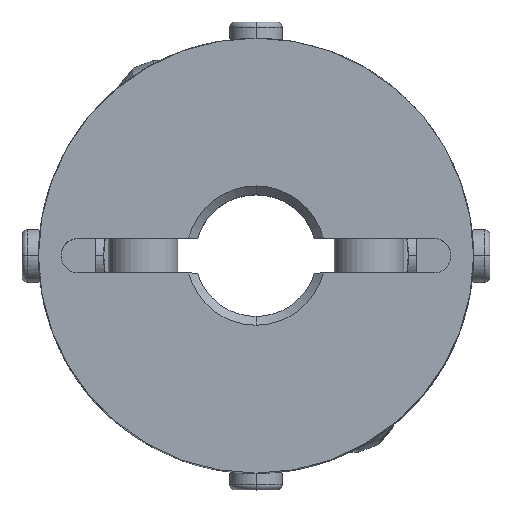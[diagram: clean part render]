
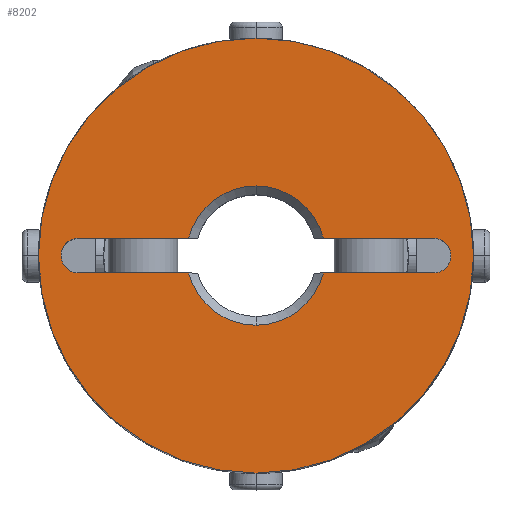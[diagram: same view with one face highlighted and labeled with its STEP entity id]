
A CAD part, top view. The second image highlights one B-rep face of the part: STEP entity #8202.
In plain terms, the highlighted planar face has unit normal (0, 0, 1).
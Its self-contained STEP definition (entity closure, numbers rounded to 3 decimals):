
#885=CARTESIAN_POINT('',(0.,12.5,13.5));
#886=VERTEX_POINT('',#885);
#893=CARTESIAN_POINT('',(0.,-12.5,13.5));
#894=VERTEX_POINT('',#893);
#895=CARTESIAN_POINT('',(0.,0.0,13.5));
#896=DIRECTION('',(0.0,0.0,-1.0));
#897=DIRECTION('',(0.0,-1.0,0.0));
#898=AXIS2_PLACEMENT_3D('',#895,#896,#897);
#899=CIRCLE('',#898,12.5);
#900=EDGE_CURVE('',#886,#894,#899,.T.);
#1153=CARTESIAN_POINT('',(10.907,0.707,13.5));
#1154=VERTEX_POINT('',#1153);
#1170=CARTESIAN_POINT('',(10.2,-1.,13.5));
#1171=VERTEX_POINT('',#1170);
#1178=CARTESIAN_POINT('',(10.2,0.,13.5));
#1179=DIRECTION('',(0.0,0.0,1.0));
#1180=DIRECTION('',(0.707,-0.707,0.0));
#1181=AXIS2_PLACEMENT_3D('',#1178,#1179,#1180);
#1182=CIRCLE('',#1181,1.0);
#1183=EDGE_CURVE('',#1171,#1154,#1182,.T.);
#1195=CARTESIAN_POINT('',(-10.907,-0.707,13.5));
#1196=VERTEX_POINT('',#1195);
#1212=CARTESIAN_POINT('',(-10.2,1.,13.5));
#1213=VERTEX_POINT('',#1212);
#1220=CARTESIAN_POINT('',(-10.2,0.,13.5));
#1221=DIRECTION('',(0.0,0.0,1.0));
#1222=DIRECTION('',(-0.707,0.707,0.0));
#1223=AXIS2_PLACEMENT_3D('',#1220,#1221,#1222);
#1224=CIRCLE('',#1223,1.0);
#1225=EDGE_CURVE('',#1213,#1196,#1224,.T.);
#1235=CARTESIAN_POINT('',(0.,4.0,13.5));
#1236=VERTEX_POINT('',#1235);
#1244=CARTESIAN_POINT('',(3.873,1.,13.5));
#1245=VERTEX_POINT('',#1244);
#1259=CARTESIAN_POINT('',(0.,0.0,13.5));
#1260=DIRECTION('',(0.0,0.0,1.0));
#1261=DIRECTION('',(0.0,1.0,0.0));
#1262=AXIS2_PLACEMENT_3D('',#1259,#1260,#1261);
#1263=CIRCLE('',#1262,4.0);
#1264=EDGE_CURVE('',#1245,#1236,#1263,.T.);
#1276=CARTESIAN_POINT('',(0.,-4.0,13.5));
#1277=VERTEX_POINT('',#1276);
#1293=CARTESIAN_POINT('',(-3.873,-1.,13.5));
#1294=VERTEX_POINT('',#1293);
#1308=CARTESIAN_POINT('',(0.,0.0,13.5));
#1309=DIRECTION('',(0.0,0.0,1.0));
#1310=DIRECTION('',(0.0,-1.0,0.0));
#1311=AXIS2_PLACEMENT_3D('',#1308,#1309,#1310);
#1312=CIRCLE('',#1311,4.0);
#1313=EDGE_CURVE('',#1294,#1277,#1312,.T.);
#7994=CARTESIAN_POINT('',(-10.2,-1.,13.5));
#7995=VERTEX_POINT('',#7994);
#8002=CARTESIAN_POINT('',(-3.873,-1.,13.5));
#8003=DIRECTION('',(-1.0,0.0,0.0));
#8004=VECTOR('',#8003,6.327);
#8005=LINE('',#8002,#8004);
#8006=EDGE_CURVE('',#1294,#7995,#8005,.T.);
#8063=CARTESIAN_POINT('',(-3.873,1.,13.5));
#8064=VERTEX_POINT('',#8063);
#8078=CARTESIAN_POINT('',(-10.2,1.,13.5));
#8079=DIRECTION('',(1.0,0.0,0.0));
#8080=VECTOR('',#8079,6.327);
#8081=LINE('',#8078,#8080);
#8082=EDGE_CURVE('',#1213,#8064,#8081,.T.);
#8099=CARTESIAN_POINT('',(3.873,-1.,13.5));
#8100=VERTEX_POINT('',#8099);
#8101=CARTESIAN_POINT('',(0.,0.0,13.5));
#8102=DIRECTION('',(0.0,0.0,1.0));
#8103=DIRECTION('',(0.0,-1.0,0.0));
#8104=AXIS2_PLACEMENT_3D('',#8101,#8102,#8103);
#8105=CIRCLE('',#8104,4.0);
#8106=EDGE_CURVE('',#1277,#8100,#8105,.T.);
#8133=CARTESIAN_POINT('',(10.2,-1.,13.5));
#8134=DIRECTION('',(-1.0,0.0,0.0));
#8135=VECTOR('',#8134,6.327);
#8136=LINE('',#8133,#8135);
#8137=EDGE_CURVE('',#1171,#8100,#8136,.T.);
#8148=CARTESIAN_POINT('',(0.,-1.136,13.5));
#8149=DIRECTION('',(0.0,0.0,1.0));
#8150=DIRECTION('',(0.0,-1.0,0.0));
#8151=AXIS2_PLACEMENT_3D('',#8148,#8149,#8150);
#8152=PLANE('',#8151);
#8153=CARTESIAN_POINT('',(0.,0.0,13.5));
#8154=DIRECTION('',(0.0,0.0,-1.0));
#8155=DIRECTION('',(0.0,-1.0,0.0));
#8156=AXIS2_PLACEMENT_3D('',#8153,#8154,#8155);
#8157=CIRCLE('',#8156,12.5);
#8158=EDGE_CURVE('',#894,#886,#8157,.T.);
#8159=ORIENTED_EDGE('',*,*,#8158,.F.);
#8160=ORIENTED_EDGE('',*,*,#900,.F.);
#8161=EDGE_LOOP('',(#8159,#8160));
#8162=FACE_OUTER_BOUND('',#8161,.T.);
#8163=ORIENTED_EDGE('',*,*,#1313,.F.);
#8164=ORIENTED_EDGE('',*,*,#8006,.T.);
#8165=CARTESIAN_POINT('',(-10.2,0.,13.5));
#8166=DIRECTION('',(0.0,0.0,1.0));
#8167=DIRECTION('',(-0.707,0.707,0.0));
#8168=AXIS2_PLACEMENT_3D('',#8165,#8166,#8167);
#8169=CIRCLE('',#8168,1.0);
#8170=EDGE_CURVE('',#1196,#7995,#8169,.T.);
#8171=ORIENTED_EDGE('',*,*,#8170,.F.);
#8172=ORIENTED_EDGE('',*,*,#1225,.F.);
#8173=ORIENTED_EDGE('',*,*,#8082,.T.);
#8174=CARTESIAN_POINT('',(0.,0.0,13.5));
#8175=DIRECTION('',(0.0,0.0,1.0));
#8176=DIRECTION('',(0.0,1.0,0.0));
#8177=AXIS2_PLACEMENT_3D('',#8174,#8175,#8176);
#8178=CIRCLE('',#8177,4.0);
#8179=EDGE_CURVE('',#1236,#8064,#8178,.T.);
#8180=ORIENTED_EDGE('',*,*,#8179,.F.);
#8181=ORIENTED_EDGE('',*,*,#1264,.F.);
#8182=CARTESIAN_POINT('',(10.2,1.,13.5));
#8183=VERTEX_POINT('',#8182);
#8184=CARTESIAN_POINT('',(3.873,1.,13.5));
#8185=DIRECTION('',(1.0,0.0,0.0));
#8186=VECTOR('',#8185,6.327);
#8187=LINE('',#8184,#8186);
#8188=EDGE_CURVE('',#1245,#8183,#8187,.T.);
#8189=ORIENTED_EDGE('',*,*,#8188,.T.);
#8190=CARTESIAN_POINT('',(10.2,0.,13.5));
#8191=DIRECTION('',(0.0,0.0,1.0));
#8192=DIRECTION('',(0.707,-0.707,0.0));
#8193=AXIS2_PLACEMENT_3D('',#8190,#8191,#8192);
#8194=CIRCLE('',#8193,1.0);
#8195=EDGE_CURVE('',#1154,#8183,#8194,.T.);
#8196=ORIENTED_EDGE('',*,*,#8195,.F.);
#8197=ORIENTED_EDGE('',*,*,#1183,.F.);
#8198=ORIENTED_EDGE('',*,*,#8137,.T.);
#8199=ORIENTED_EDGE('',*,*,#8106,.F.);
#8200=EDGE_LOOP('',(#8163,#8164,#8171,#8172,#8173,#8180,#8181,#8189,#8196,#8197,#8198,#8199));
#8201=FACE_BOUND('',#8200,.T.);
#8202=ADVANCED_FACE('',(#8162,#8201),#8152,.T.);
